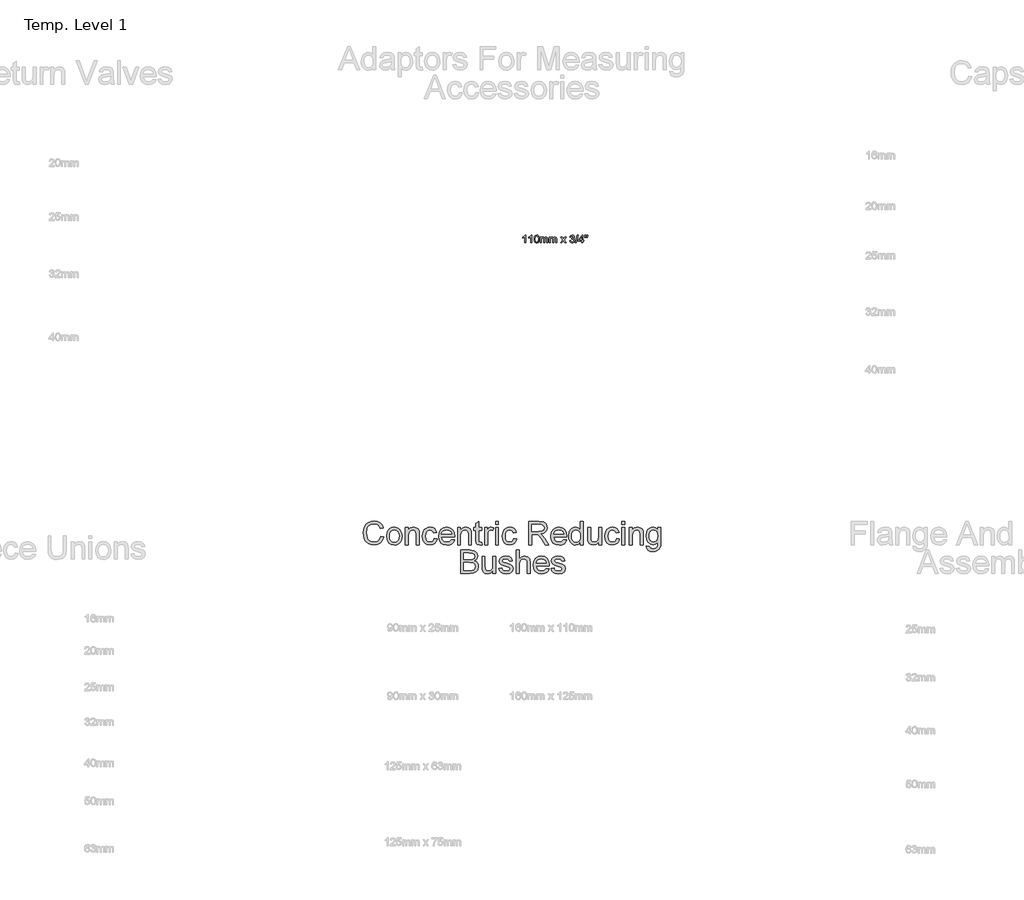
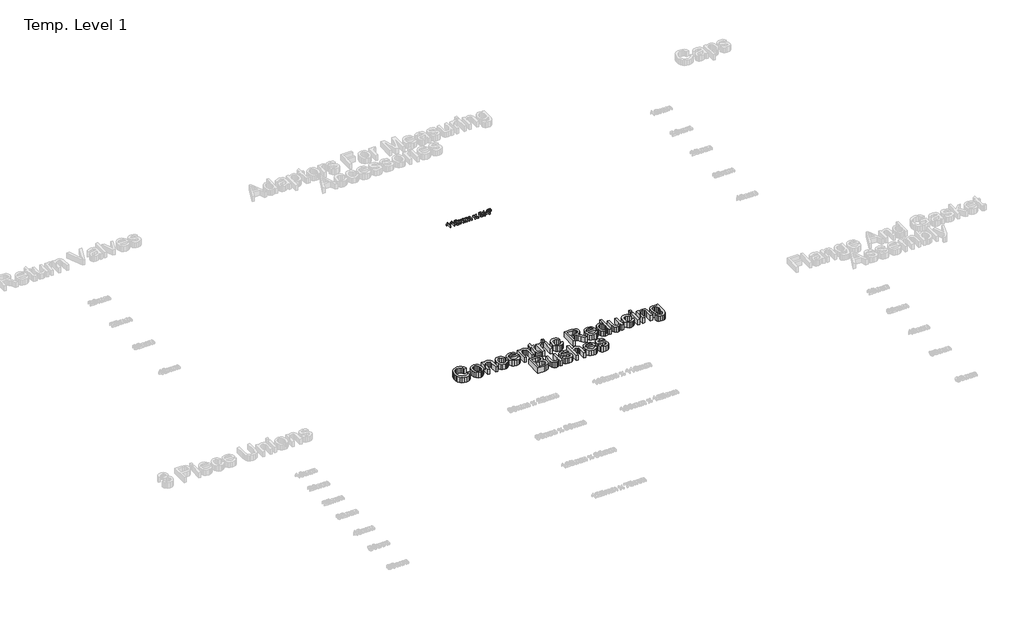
# One storey, part 38 of 62: 2 proxies.
"""IFC4 building model written with IfcOpenShell, lengths in millimetres."""

import ifcopenshell
import ifcopenshell.guid

model = None  # the IFC model being written
_history = None  # IfcOwnerHistory: only IFC2X3 demands one
_inside = {}  # id of a spatial element -> (the spatial element, [elements in it])
_under = {}  # id of a project, library or spatial element -> (it, [spatial elements below it])
_declared = {}  # id of a project -> (the project, [libraries it declares])
_typed = {}  # id of a type object -> (the type object, [elements of that type])
_made_of = {}  # id of a material, layer set ... -> (it, [elements and type objects made of it])


def new_model(schema):
    """Start an empty IFC model of exactly this schema.

    Asked for "IFC4X3", IfcOpenShell would pick the latest addendum, in which some entities
    have other attributes; the version numbers below select the first issue.
    IFC2X3 requires an IfcOwnerHistory on every rooted entity: one is made here for all.
    """
    global model, _history
    if schema == "IFC4X3":
        model = ifcopenshell.file(schema_version=(4, 3, 0, 0))
    else:
        model = ifcopenshell.file(schema=schema)
    _inside.clear()
    _under.clear()
    _declared.clear()
    _typed.clear()
    _made_of.clear()
    _history = None
    if model.schema == "IFC2X3":
        org = make("IfcOrganization", Name="unknown")
        user = make(
            "IfcPersonAndOrganization",
            ThePerson=make("IfcPerson", FamilyName="unknown"),
            TheOrganization=org,
        )
        app = make(
            "IfcApplication",
            ApplicationDeveloper=org,
            Version="unknown",
            ApplicationFullName="unknown",
            ApplicationIdentifier="unknown",
        )
        _history = make(
            "IfcOwnerHistory",
            OwningUser=user,
            OwningApplication=app,
            ChangeAction="ADDED",
            CreationDate=0,
        )
    return model


def make(cls, **values):
    """One entity of the class cls with the attributes given. An attribute that is None is left unset."""
    return model.create_entity(
        cls, **{name: value for name, value in values.items() if value is not None}
    )


def rooted(cls, **values):
    """An entity with a GlobalId (a new one), such as an element, a storey or a relation."""
    return make(cls, GlobalId=ifcopenshell.guid.new(), OwnerHistory=_history, **values)


def si_unit(unit_type, name, prefix=None):
    """IfcSIUnit, for example si_unit("LENGTHUNIT", "METRE", prefix="MILLI")."""
    return make("IfcSIUnit", UnitType=unit_type, Prefix=prefix, Name=name)


def assignment(units):
    """IfcUnitAssignment: the units of a project."""
    return None if units is None else make("IfcUnitAssignment", Units=units)


def point(xyz):
    """IfcCartesianPoint."""
    return None if xyz is None else make("IfcCartesianPoint", Coordinates=xyz)


def direction(xyz):
    """IfcDirection."""
    return None if xyz is None else make("IfcDirection", DirectionRatios=xyz)


def frame(location, z_axis=None, x_axis=None):
    """IfcAxis2Placement3D, a coordinate frame: its origin and axes. An axis left out is left unset."""
    return make(
        "IfcAxis2Placement3D",
        Location=point(location),
        Axis=direction(z_axis),
        RefDirection=direction(x_axis),
    )


def origin():
    """The frame at (0, 0, 0) with its axes left unset."""
    return frame((0.0, 0.0, 0.0))


def origin_with_axes():
    """The frame at (0, 0, 0) with the z axis (0, 0, 1) and the x axis (1, 0, 0) written out."""
    return frame((0.0, 0.0, 0.0), z_axis=(0.0, 0.0, 1.0), x_axis=(1.0, 0.0, 0.0))


def place(relative_to, where):
    """IfcLocalPlacement: puts the frame where relative to a parent placement (None: the world)."""
    return make(
        "IfcLocalPlacement", PlacementRelTo=relative_to, RelativePlacement=where
    )


def context(
    kind, dimensions, precision=None, world=None, true_north=None, identifier=None
):
    """IfcGeometricRepresentationContext, for example the 3D "Model" context."""
    return make(
        "IfcGeometricRepresentationContext",
        ContextIdentifier=identifier,
        ContextType=kind,
        CoordinateSpaceDimension=dimensions,
        Precision=precision,
        WorldCoordinateSystem=world,
        TrueNorth=true_north,
    )


def project(units=None, contexts=None):
    """IfcProject with its units and contexts."""
    return rooted(
        "IfcProject",
        Name="project",
        RepresentationContexts=contexts,
        UnitsInContext=assignment(units),
    )


def spatial(cls, under=None, at=None, **own):
    """A site, building, storey or space (cls), placed at a placement, below another one or the project."""
    s = rooted(cls, ObjectPlacement=at, **own)
    if under is not None:
        _under.setdefault(under.id(), (under, []))[1].append(s)
    return s


def polyline(points):
    """IfcPolyline through the points."""
    return make("IfcPolyline", Points=[point(p) for p in points])


def outline(outer, holes=None, kind="AREA"):
    """IfcArbitraryClosedProfileDef: a profile drawn as a closed curve; with holes, ...WithVoids."""
    if holes is None:
        return make("IfcArbitraryClosedProfileDef", ProfileType=kind, OuterCurve=outer)
    return make(
        "IfcArbitraryProfileDefWithVoids",
        ProfileType=kind,
        OuterCurve=outer,
        InnerCurves=holes,
    )


def extrude(swept, where, along, depth):
    """IfcExtrudedAreaSolid: the profile swept, set in the frame where, extruded along a direction by depth."""
    return make(
        "IfcExtrudedAreaSolid",
        SweptArea=swept,
        Position=where,
        ExtrudedDirection=direction(along),
        Depth=depth,
    )


def shape(context_of_items, identifier, shape_type, items):
    """IfcShapeRepresentation: the items that make up one representation, for example the "Body"."""
    return make(
        "IfcShapeRepresentation",
        ContextOfItems=context_of_items,
        RepresentationIdentifier=identifier,
        RepresentationType=shape_type,
        Items=items,
    )


def made_of(thing, what):
    """Note that an element or type object is made of a material, layer set ...; save() writes the relation."""
    if what is not None:
        _made_of.setdefault(what.id(), (what, []))[1].append(thing)
    return thing


def element(
    cls,
    number,
    at=None,
    inside=None,
    cuts=None,
    type_object=None,
    material=None,
    context=None,
    identifier="Body",
    shape_type=None,
    held_by="IfcProductDefinitionShape",
    body=None,
    shapes=None,
    **own,
):
    """One element of the class cls, such as IfcWall. Its Tag is "e" and its number.

    at: its placement. inside: the storey or other place that contains it. cuts: it is an
    opening in that element (IfcRelVoidsElement). A single representation is given by context,
    identifier, shape_type and body (its items); several are given by shapes. held_by: the class
    of the entity that holds the representations. save() writes the other relations.
    """
    e = rooted(cls, Tag="e%d" % number, ObjectPlacement=at, **own)
    if body is not None:
        shapes = [shape(context, identifier, shape_type, body)]
    if shapes is not None:
        e.Representation = make(held_by, Representations=shapes)
    if inside is not None:
        _inside.setdefault(inside.id(), (inside, []))[1].append(e)
    if cuts is not None:
        rooted(
            "IfcRelVoidsElement", RelatingBuildingElement=cuts, RelatedOpeningElement=e
        )
    if type_object is not None:
        _typed.setdefault(type_object.id(), (type_object, []))[1].append(e)
    return made_of(e, material)


def aggregate(whole, parts):
    """IfcRelAggregates: a whole, such as a stair, and the parts it consists of."""
    return rooted("IfcRelAggregates", RelatingObject=whole, RelatedObjects=parts)


def save(model, path):
    """Write the relations noted so far, then the file.

    IfcRelAggregates (storeys below a building ...), IfcRelContainedInSpatialStructure (elements
    in a storey), IfcRelDefinesByType, IfcRelAssociatesMaterial and IfcRelDeclares: one each for
    every whole, place, type object, material and project.
    """
    for whole, parts in _under.values():
        aggregate(whole, parts)
    for where, things in _inside.values():
        rooted(
            "IfcRelContainedInSpatialStructure",
            RelatedElements=things,
            RelatingStructure=where,
        )
    for kind, things in _typed.values():
        rooted("IfcRelDefinesByType", RelatedObjects=things, RelatingType=kind)
    for what, things in _made_of.values():
        rooted("IfcRelAssociatesMaterial", RelatedObjects=things, RelatingMaterial=what)
    for by, libraries in _declared.values():
        rooted("IfcRelDeclares", RelatingContext=by, RelatedDefinitions=libraries)
    model.write(path)


model = new_model("IFC4")

# Units and contexts
model_context = context("Model", 3, world=origin())
ifc_project = project(units=[si_unit("LENGTHUNIT", "METRE", prefix="MILLI")], contexts=[model_context])

# Site, building, storey
site = spatial("IfcSite", under=ifc_project)
building = spatial("IfcBuilding", under=site)
storey = spatial("IfcBuildingStorey", under=building, Name="Temp. Level 1", Elevation=0.0)

# Proxies
placement = place(None, origin())
element("IfcBuildingElementProxy", 1, Name="150mm Arial", ObjectType="150mm Arial", at=placement, inside=storey, context=model_context, shape_type="SweptSolid", body=[
    extrude(outline(polyline([(17588.4253288, -3926.5446709), (17606.8868673, -3931.3042862), (17598.3682375, -3952.8172069), (17584.9998481, -3968.5338536), (17567.4397519, -3978.1477358), (17546.3460019, -3981.3523632), (17524.9322399, -3978.9274834), (17507.9265308, -3971.6528439), (17494.891675, -3959.7808487), (17485.3904731, -3943.5639016), (17479.5896918, -3924.4983968), (17477.6560981, -3904.0807286), (17479.8420957, -3882.5452718), (17486.4000885, -3863.948517), (17496.9875284, -3848.8809088), (17511.2618673, -3837.932892), (17528.1909538, -3831.2667262), (17546.7426365, -3829.0446709), (17566.9845236, -3831.9202718), (17583.7198, -3840.5470747), (17596.4256293, -3854.3932286), (17604.579175, -3872.9268824), (17586.1176365, -3877.3259209), (17579.7173962, -3863.86288), (17570.9734058, -3854.6276036), (17559.7774923, -3849.2865579), (17546.0214827, -3847.5062093), (17530.1651125, -3849.480368), (17517.1392712, -3855.4028439), (17507.2549563, -3864.651642), (17500.8231654, -3876.604767), (17496.1176365, -3904.0446709), (17501.68855, -3935.8475555), (17508.8099442, -3947.7240579), (17519.0323, -3956.1660651), (17531.2874082, -3961.2096348), (17544.5070596, -3962.8908247), (17559.9172159, -3960.6011612), (17572.7582615, -3953.7321709), (17582.4532736, -3942.3559689), (17588.4253288, -3926.5446709)])), origin_with_axes(), (0.0, 0.0, 1.0), 50.0),
    extrude(outline(polyline([(17625.3484058, -3924.8139016), (17629.3417952, -3898.6630603), (17641.3219635, -3880.2826516), (17656.1236462, -3871.277243), (17673.8460019, -3868.2754401), (17693.2405332, -3871.9307887), (17708.7318192, -3882.8968343), (17718.8865668, -3900.3081925), (17722.2714827, -3923.2994786), (17720.7750885, -3941.9503199), (17716.2859058, -3956.1480362), (17708.9346438, -3966.7805483), (17698.8520115, -3974.7357766), (17686.8763505, -3979.6982165), (17673.8460019, -3981.3523632), (17654.2170957, -3977.7105362), (17638.7438385, -3966.7850555), (17628.6972639, -3949.0086132), (17625.3484058, -3924.8139016)]), holes=[polyline([(17643.8099442, -3924.7778439), (17645.9463625, -3941.4860771), (17652.3556173, -3953.3896228), (17662.00105, -3960.5155242), (17673.8460019, -3962.8908247), (17685.6368673, -3960.5020026), (17695.2642712, -3953.3355362), (17701.673526, -3941.2742382), (17703.8099442, -3924.2009209), (17701.6600043, -3907.9794665), (17695.2101846, -3896.2381805), (17685.5692591, -3889.112279), (17673.8460019, -3886.7369786), (17662.00105, -3889.1032646), (17652.3556173, -3896.2021228), (17645.9463625, -3908.0786252), (17643.8099442, -3924.7778439)])]), origin_with_axes(), (0.0, 0.0, 1.0), 50.0),
    extrude(outline(polyline([(17743.0407135, -3979.0446709), (17743.0407135, -3870.5831324), (17761.5022519, -3870.5831324), (17761.5022519, -3885.7273632), (17775.6188385, -3872.6384209), (17794.891675, -3868.2754401), (17812.3255692, -3871.7910651), (17824.2246077, -3881.0218343), (17829.7594635, -3894.5975555), (17830.7330212, -3912.4461132), (17830.7330212, -3979.0446709), (17812.2714827, -3979.0446709), (17812.2714827, -3914.9340939), (17810.1440788, -3898.5999593), (17802.62605, -3889.964142), (17789.9517712, -3886.7369786), (17779.1389707, -3888.5488776), (17769.9217231, -3893.9845747), (17763.6071197, -3904.4863776), (17761.5022519, -3921.4965939), (17761.5022519, -3979.0446709), (17743.0407135, -3979.0446709)])), origin_with_axes(), (0.0, 0.0, 1.0), 50.0),
    extrude(outline(polyline([(17925.3484058, -3939.8139016), (17943.8099442, -3942.1215939), (17938.6627087, -3958.5413656), (17928.9902327, -3970.9497189), (17915.7029731, -3978.7517021), (17899.7113865, -3981.3523632), (17880.0734659, -3977.7240579), (17864.7173962, -3966.839142), (17854.806038, -3949.17538), (17851.5022519, -3925.2105362), (17857.1452808, -3894.5434689), (17864.266675, -3883.0455723), (17874.3448, -3874.8379401), (17886.4015909, -3869.9160651), (17899.4589827, -3868.2754401), (17915.0584418, -3870.5290459), (17927.5298962, -3877.2898632), (17936.4767111, -3888.1973151), (17941.5022519, -3902.8908247), (17923.0407135, -3905.198517), (17914.4770115, -3891.370392), (17899.6032135, -3886.7369786), (17887.6726245, -3889.0176276), (17878.2029731, -3895.8595747), (17872.0235861, -3907.6324112), (17869.9637904, -3924.7057286), (17871.9785139, -3942.0089137), (17878.0226846, -3953.8223151), (17887.321062, -3960.6236973), (17899.0984058, -3962.8908247), (17908.6582014, -3961.4755603), (17916.4962423, -3957.229767), (17922.1978649, -3950.0452718), (17925.3484058, -3939.8139016)])), origin_with_axes(), (0.0, 0.0, 1.0), 50.0),
    extrude(outline(polyline([(18035.9012904, -3946.7369786), (18054.0022519, -3949.0446709), (18047.4803168, -3962.683493), (18037.0731654, -3972.8788055), (18023.0151726, -3979.2339737), (18005.5407135, -3981.3523632), (17983.8790548, -3977.6970146), (17967.2113865, -3966.7309689), (17956.5833817, -3949.1663656), (17953.0407135, -3925.7153439), (17956.6194394, -3901.4755603), (17967.3556173, -3883.3475555), (17983.797925, -3872.0434689), (18004.4950404, -3868.2754401), (18024.5476245, -3872.0344545), (18040.5707615, -3883.3114978), (18051.0770716, -3901.4034449), (18054.579175, -3925.6071709), (18054.4710019, -3930.5831324), (17971.5022519, -3930.5831324), (17974.6978649, -3944.402243), (17982.1212423, -3954.5614978), (17992.8348841, -3960.808493), (18005.9012904, -3962.8908247), (18024.0022519, -3959.0326516), (18035.9012904, -3946.7369786)]), holes=[polyline([(17971.5022519, -3912.1215939), (18036.1176365, -3912.1215939), (18033.6206413, -3902.3679882), (18028.7258096, -3895.3908247), (18017.9625885, -3888.9004401), (18004.422925, -3886.7369786), (17991.9785139, -3888.4632406), (17981.68855, -3893.6420266), (17974.5356053, -3901.7144425), (17971.5022519, -3912.1215939)])]), origin_with_axes(), (0.0, 0.0, 1.0), 50.0),
    extrude(outline(polyline([(18073.0407135, -3979.0446709), (18073.0407135, -3870.5831324), (18091.5022519, -3870.5831324), (18091.5022519, -3885.7273632), (18105.6188385, -3872.6384209), (18124.891675, -3868.2754401), (18142.3255692, -3871.7910651), (18154.2246077, -3881.0218343), (18159.7594635, -3894.5975555), (18160.7330212, -3912.4461132), (18160.7330212, -3979.0446709), (18142.2714827, -3979.0446709), (18142.2714827, -3914.9340939), (18140.1440788, -3898.5999593), (18132.62605, -3889.964142), (18119.9517712, -3886.7369786), (18109.1389707, -3888.5488776), (18099.9217231, -3893.9845747), (18093.6071197, -3904.4863776), (18091.5022519, -3921.4965939), (18091.5022519, -3979.0446709), (18073.0407135, -3979.0446709)])), origin_with_axes(), (0.0, 0.0, 1.0), 50.0),
    extrude(outline(polyline([(18225.3484058, -3963.6480362), (18227.6560981, -3979.5855362), (18213.8460019, -3981.3523632), (18198.3772519, -3978.2874593), (18190.6609058, -3970.2465939), (18188.4253288, -3949.2970747), (18188.4253288, -3889.0446709), (18174.579175, -3889.0446709), (18174.579175, -3870.5831324), (18188.4253288, -3870.5831324), (18188.4253288, -3844.2249593), (18206.8868673, -3833.3715939), (18206.8868673, -3870.5831324), (18225.3484058, -3870.5831324), (18225.3484058, -3889.0446709), (18206.8868673, -3889.0446709), (18206.8868673, -3948.7562093), (18207.860425, -3958.2754401), (18211.0154731, -3961.6468343), (18217.3075404, -3962.8908247), (18225.3484058, -3963.6480362)])), origin_with_axes(), (0.0, 0.0, 1.0), 50.0),
    extrude(outline(polyline([(18243.8099442, -3979.0446709), (18243.8099442, -3870.5831324), (18259.9637904, -3870.5831324), (18259.9637904, -3886.6288055), (18271.4301365, -3871.8451516), (18282.9685981, -3868.2754401), (18301.5022519, -3873.9725555), (18295.3363865, -3890.5230362), (18282.3556173, -3886.7369786), (18271.9169154, -3890.3788055), (18265.2642712, -3900.4749593), (18262.2714827, -3922.0374593), (18262.2714827, -3979.0446709), (18243.8099442, -3979.0446709)])), origin_with_axes(), (0.0, 0.0, 1.0), 50.0),
    extrude(outline(polyline([(18313.0407135, -3979.0446709), (18313.0407135, -3870.5831324), (18331.5022519, -3870.5831324), (18331.5022519, -3979.0446709), (18313.0407135, -3979.0446709)])), origin_with_axes(), (0.0, 0.0, 1.0), 50.0),
    extrude(outline(polyline([(18313.0407135, -3849.8139016), (18313.0407135, -3831.3523632), (18331.5022519, -3831.3523632), (18331.5022519, -3849.8139016), (18313.0407135, -3849.8139016)])), origin_with_axes(), (0.0, 0.0, 1.0), 50.0),
    extrude(outline(polyline([(18428.4253288, -3939.8139016), (18446.8868673, -3942.1215939), (18441.7396317, -3958.5413656), (18432.0671558, -3970.9497189), (18418.7798962, -3978.7517021), (18402.7883096, -3981.3523632), (18383.1503889, -3977.7240579), (18367.7943192, -3966.839142), (18357.8829611, -3949.17538), (18354.579175, -3925.2105362), (18360.2222038, -3894.5434689), (18367.3435981, -3883.0455723), (18377.4217231, -3874.8379401), (18389.4785139, -3869.9160651), (18402.5359058, -3868.2754401), (18418.1353649, -3870.5290459), (18430.6068192, -3877.2898632), (18439.5536341, -3888.1973151), (18444.579175, -3902.8908247), (18426.1176365, -3905.198517), (18417.5539346, -3891.370392), (18402.6801365, -3886.7369786), (18390.7495476, -3889.0176276), (18381.2798962, -3895.8595747), (18375.1005091, -3907.6324112), (18373.0407135, -3924.7057286), (18375.055437, -3942.0089137), (18381.0996077, -3953.8223151), (18390.3979851, -3960.6236973), (18402.1753288, -3962.8908247), (18411.7351245, -3961.4755603), (18419.5731654, -3957.229767), (18425.274788, -3950.0452718), (18428.4253288, -3939.8139016)])), origin_with_axes(), (0.0, 0.0, 1.0), 50.0),
    extrude(outline(polyline([(18523.0407135, -3979.0446709), (18523.0407135, -3831.3523632), (18586.6825404, -3831.3523632), (18616.2318192, -3835.3367382), (18625.3273721, -3840.8535651), (18632.3856654, -3849.4352959), (18636.915413, -3860.0768223), (18638.4253288, -3871.7730362), (18635.9238264, -3886.3223151), (18628.4193192, -3898.3836132), (18615.6864466, -3907.2267622), (18597.4998481, -3912.1215939), (18607.9926365, -3920.0182286), (18622.9565788, -3939.0206324), (18647.5839827, -3979.0446709), (18626.1296558, -3979.0446709), (18606.9109058, -3948.4316901), (18593.0286942, -3928.167267), (18583.2750885, -3918.5939497), (18574.4950404, -3915.0783247), (18563.7859058, -3914.4292862), (18541.5022519, -3914.4292862), (18541.5022519, -3979.0446709), (18523.0407135, -3979.0446709)]), holes=[polyline([(18541.5022519, -3895.9677478), (18582.8243673, -3895.9677478), (18603.9000885, -3893.3535651), (18615.8712423, -3884.9881805), (18619.9637904, -3872.4581324), (18618.0121678, -3863.4527237), (18612.1573, -3856.1961132), (18602.0836822, -3851.4094545), (18587.4758096, -3849.8139016), (18541.5022519, -3849.8139016), (18541.5022519, -3895.9677478)])]), origin_with_axes(), (0.0, 0.0, 1.0), 50.0),
    extrude(outline(polyline([(18744.3628288, -3946.7369786), (18762.4637904, -3949.0446709), (18755.9418553, -3962.683493), (18745.5347038, -3972.8788055), (18731.4767111, -3979.2339737), (18714.0022519, -3981.3523632), (18692.3405933, -3977.6970146), (18675.672925, -3966.7309689), (18665.0449202, -3949.1663656), (18661.5022519, -3925.7153439), (18665.0809779, -3901.4755603), (18675.8171558, -3883.3475555), (18692.2594635, -3872.0434689), (18712.9565788, -3868.2754401), (18733.009163, -3872.0344545), (18749.0323, -3883.3114978), (18759.5386101, -3901.4034449), (18763.0407135, -3925.6071709), (18762.9325404, -3930.5831324), (18679.9637904, -3930.5831324), (18683.1594034, -3944.402243), (18690.5827808, -3954.5614978), (18701.2964226, -3960.808493), (18714.3628288, -3962.8908247), (18732.4637904, -3959.0326516), (18744.3628288, -3946.7369786)]), holes=[polyline([(18679.9637904, -3912.1215939), (18744.579175, -3912.1215939), (18742.0821798, -3902.3679882), (18737.1873481, -3895.3908247), (18726.4241269, -3888.9004401), (18712.8844635, -3886.7369786), (18700.4400524, -3888.4632406), (18690.1500885, -3893.6420266), (18682.9971438, -3901.7144425), (18679.9637904, -3912.1215939)])]), origin_with_axes(), (0.0, 0.0, 1.0), 50.0),
    extrude(outline(polyline([(18848.4253288, -3979.0446709), (18848.4253288, -3961.6288055), (18836.2107856, -3976.4214737), (18819.3267712, -3981.3523632), (18807.391675, -3979.5675074), (18796.4661942, -3974.2129401), (18787.2173962, -3965.6627598), (18780.3123481, -3954.2910651), (18776.0124683, -3940.5575915), (18774.579175, -3924.9220747), (18779.8616269, -3895.5350555), (18786.4601846, -3883.8794064), (18795.6909538, -3875.3066901), (18806.8553168, -3870.0332526), (18819.2546558, -3868.2754401), (18836.2738865, -3873.3054882), (18848.4253288, -3886.3764016), (18848.4253288, -3831.3523632), (18866.8868673, -3831.3523632), (18866.8868673, -3979.0446709), (18848.4253288, -3979.0446709)]), holes=[polyline([(18793.0407135, -3924.8499593), (18795.1230452, -3941.5491781), (18801.3700404, -3953.4256805), (18810.4475644, -3960.5245387), (18821.0214827, -3962.8908247), (18831.5908938, -3960.6327117), (18840.43855, -3953.8583728), (18846.4286341, -3942.441606), (18848.4253288, -3926.2562093), (18846.3925764, -3908.5608968), (18840.2943192, -3896.292267), (18831.2213024, -3889.1258007), (18820.2642712, -3886.7369786), (18809.5821798, -3889.0311492), (18800.829175, -3895.9136612), (18794.9878288, -3907.7360771), (18793.0407135, -3924.8499593)])]), origin_with_axes(), (0.0, 0.0, 1.0), 50.0),
    extrude(outline(polyline([(18963.8099442, -3979.0446709), (18963.8099442, -3960.4028439), (18949.3508096, -3976.1149834), (18930.4926365, -3981.3523632), (18913.1308577, -3977.6744786), (18901.1597038, -3968.4437093), (18895.6609058, -3954.8499593), (18894.579175, -3937.6864978), (18894.579175, -3870.5831324), (18913.0407135, -3870.5831324), (18913.0407135, -3928.9965939), (18914.1585019, -3947.8187093), (18921.4601846, -3958.870392), (18935.2161942, -3962.8908247), (18950.6308577, -3958.7802478), (18960.8171558, -3947.5843343), (18963.8099442, -3927.0134209), (18963.8099442, -3870.5831324), (18982.2714827, -3870.5831324), (18982.2714827, -3979.0446709), (18963.8099442, -3979.0446709)])), origin_with_axes(), (0.0, 0.0, 1.0), 50.0),
    extrude(outline(polyline([(19076.8868673, -3939.8139016), (19095.3484058, -3942.1215939), (19090.2011702, -3958.5413656), (19080.5286942, -3970.9497189), (19067.2414346, -3978.7517021), (19051.2498481, -3981.3523632), (19031.6119274, -3977.7240579), (19016.2558577, -3966.839142), (19006.3444995, -3949.17538), (19003.0407135, -3925.2105362), (19008.6837423, -3894.5434689), (19015.8051365, -3883.0455723), (19025.8832615, -3874.8379401), (19037.9400524, -3869.9160651), (19050.9974442, -3868.2754401), (19066.5969034, -3870.5290459), (19079.0683577, -3877.2898632), (19088.0151726, -3888.1973151), (19093.0407135, -3902.8908247), (19074.579175, -3905.198517), (19066.0154731, -3891.370392), (19051.141675, -3886.7369786), (19039.2110861, -3889.0176276), (19029.7414346, -3895.8595747), (19023.5620476, -3907.6324112), (19021.5022519, -3924.7057286), (19023.5169755, -3942.0089137), (19029.5611462, -3953.8223151), (19038.8595236, -3960.6236973), (19050.6368673, -3962.8908247), (19060.196663, -3961.4755603), (19068.0347038, -3957.229767), (19073.7363264, -3950.0452718), (19076.8868673, -3939.8139016)])), origin_with_axes(), (0.0, 0.0, 1.0), 50.0),
    extrude(outline(polyline([(19111.5022519, -3979.0446709), (19111.5022519, -3870.5831324), (19129.9637904, -3870.5831324), (19129.9637904, -3979.0446709), (19111.5022519, -3979.0446709)])), origin_with_axes(), (0.0, 0.0, 1.0), 50.0),
    extrude(outline(polyline([(19111.5022519, -3849.8139016), (19111.5022519, -3831.3523632), (19129.9637904, -3831.3523632), (19129.9637904, -3849.8139016), (19111.5022519, -3849.8139016)])), origin_with_axes(), (0.0, 0.0, 1.0), 50.0),
    extrude(outline(polyline([(19157.6560981, -3979.0446709), (19157.6560981, -3870.5831324), (19176.1176365, -3870.5831324), (19176.1176365, -3885.7273632), (19190.2342231, -3872.6384209), (19209.5070596, -3868.2754401), (19226.9409538, -3871.7910651), (19238.8399923, -3881.0218343), (19244.3748481, -3894.5975555), (19245.3484058, -3912.4461132), (19245.3484058, -3979.0446709), (19226.8868673, -3979.0446709), (19226.8868673, -3914.9340939), (19224.7594635, -3898.5999593), (19217.2414346, -3889.964142), (19204.5671558, -3886.7369786), (19193.7543553, -3888.5488776), (19184.5371077, -3893.9845747), (19178.2225043, -3904.4863776), (19176.1176365, -3921.4965939), (19176.1176365, -3979.0446709), (19157.6560981, -3979.0446709)])), origin_with_axes(), (0.0, 0.0, 1.0), 50.0),
    extrude(outline(polyline([(19266.1176365, -3988.2754401), (19284.579175, -3990.5831324), (19290.5647519, -4000.3187093), (19308.485425, -4004.4292862), (19327.3796558, -3999.7778439), (19336.3940788, -3986.7249593), (19337.6560981, -3965.198517), (19324.6573, -3975.5831324), (19308.8099442, -3979.0446709), (19289.7759899, -3975.0152237), (19275.5827808, -3962.9268824), (19266.7531534, -3945.2045266), (19263.8099442, -3924.2730362), (19269.0923962, -3895.6612574), (19275.5557375, -3884.0461733), (19284.3808577, -3875.4148632), (19295.2657736, -3870.0602959), (19307.9085019, -3868.2754401), (19324.3778529, -3872.3139016), (19337.6560981, -3884.4292862), (19337.6560981, -3870.5831324), (19356.1176365, -3870.5831324), (19356.1176365, -3964.2249593), (19354.8556173, -3985.8460531), (19351.0695596, -4000.0843343), (19344.5476245, -4009.5269425), (19335.0779731, -4016.761017), (19322.867937, -4021.3583728), (19308.1248481, -4022.8908247), (19290.9478649, -4020.7318704), (19277.4217231, -4014.2550074), (19268.7453409, -4003.4422069), (19266.1176365, -3988.2754401)]), holes=[polyline([(19282.2714827, -3923.011017), (19284.2411341, -3939.9446108), (19290.1500885, -3951.5867382), (19299.0338024, -3958.3340338), (19309.9277327, -3960.5831324), (19320.7405332, -3958.3475555), (19329.6693192, -3951.6408247), (19335.6594034, -3940.1474353), (19337.6560981, -3923.5518824), (19335.6008096, -3907.5467742), (19329.4349442, -3896.0218343), (19320.375449, -3889.0581925), (19309.6392712, -3886.7369786), (19299.0969034, -3889.0221348), (19290.2582615, -3895.8776036), (19284.2681774, -3907.2312694), (19282.2714827, -3923.011017)])]), origin_with_axes(), (0.0, 0.0, 1.0), 50.0),
    extrude(outline(polyline([(18093.8099442, -4161.3523632), (18093.8099442, -4013.6600555), (18150.1681173, -4013.6600555), (18177.7702808, -4018.0050074), (18187.0461221, -4023.5173271), (18194.0683577, -4031.3643824), (18199.9637904, -4050.2586132), (18195.0058577, -4067.5122189), (18180.0238865, -4080.5831324), (18190.4851245, -4086.0458728), (18198.2149923, -4094.3571709), (18202.9881293, -4104.9671468), (18204.579175, -4117.3259209), (18200.2342231, -4137.1756805), (18189.4710019, -4151.3102959), (18173.4073, -4158.8102959), (18149.735425, -4161.3523632), (18093.8099442, -4161.3523632)]), holes=[polyline([(18112.2714827, -4073.6600555), (18145.985425, -4073.6600555), (18165.672925, -4072.073517), (18177.5178769, -4065.2405843), (18181.5022519, -4053.2153439), (18177.7883096, -4041.1720747), (18167.1512904, -4034.0506805), (18143.4253288, -4032.1215939), (18112.2714827, -4032.1215939), (18112.2714827, -4073.6600555)]), polyline([(18112.2714827, -4142.8908247), (18150.1320596, -4142.8908247), (18163.8339827, -4142.1696709), (18175.4265308, -4138.1492382), (18183.1068192, -4129.9461132), (18186.1176365, -4117.5062093), (18182.5839827, -4103.1552478), (18171.1356654, -4094.5915459), (18148.329175, -4092.1215939), (18112.2714827, -4092.1215939), (18112.2714827, -4142.8908247)])]), origin_with_axes(), (0.0, 0.0, 1.0), 50.0),
    extrude(outline(polyline([(18296.8868673, -4161.3523632), (18296.8868673, -4142.7105362), (18282.4277327, -4158.4226757), (18263.5695596, -4163.6600555), (18246.2077808, -4159.9821709), (18234.2366269, -4150.7514016), (18228.7378288, -4137.1576516), (18227.6560981, -4119.9941901), (18227.6560981, -4052.8908247), (18246.1176365, -4052.8908247), (18246.1176365, -4111.3042862), (18247.235425, -4130.1264016), (18254.5371077, -4141.1780843), (18268.2931173, -4145.198517), (18283.7077808, -4141.0879401), (18293.8940788, -4129.8920266), (18296.8868673, -4109.3211132), (18296.8868673, -4052.8908247), (18315.3484058, -4052.8908247), (18315.3484058, -4161.3523632), (18296.8868673, -4161.3523632)])), origin_with_axes(), (0.0, 0.0, 1.0), 50.0),
    extrude(outline(polyline([(18333.8099442, -4129.0446709), (18352.2714827, -4126.7369786), (18355.1831413, -4134.6336132), (18360.8171558, -4140.4389016), (18380.3964827, -4145.198517), (18399.2185981, -4140.8355362), (18405.3484058, -4130.5951516), (18399.1825404, -4122.3018824), (18380.1801365, -4117.0374593), (18352.3796558, -4108.0050074), (18340.2462423, -4097.4581324), (18336.1176365, -4082.5663055), (18339.4349442, -4068.8102959), (18348.485425, -4058.2994786), (18360.2222038, -4052.8367382), (18376.1056173, -4050.5831324), (18398.5695596, -4054.2069305), (18412.8484058, -4064.0146228), (18419.1945596, -4080.5831324), (18400.7330212, -4082.8908247), (18393.7919154, -4072.7045266), (18377.547925, -4069.0446709), (18359.8796558, -4072.542267), (18354.579175, -4080.6913055), (18356.7786942, -4086.0639016), (18363.6657135, -4090.1384209), (18379.5671558, -4094.0687093), (18406.6645115, -4102.7586132), (18419.2486462, -4112.6023632), (18423.8099442, -4128.6480362), (18418.4553769, -4146.3163055), (18403.0046558, -4159.1348151), (18380.1440788, -4163.6600555), (18361.5292952, -4161.4785651), (18347.9445596, -4154.9340939), (18338.87605, -4144.0987574), (18333.8099442, -4129.0446709)])), origin_with_axes(), (0.0, 0.0, 1.0), 50.0),
    extrude(outline(polyline([(18444.579175, -4161.3523632), (18444.579175, -4013.6600555), (18463.0407135, -4013.6600555), (18463.0407135, -4067.9629401), (18477.4367471, -4054.9280843), (18495.1681173, -4050.5831324), (18515.9012904, -4055.3247189), (18528.485425, -4068.4316901), (18532.2714827, -4092.698517), (18532.2714827, -4161.3523632), (18513.8099442, -4161.3523632), (18513.8099442, -4094.6095747), (18512.3405933, -4083.0530843), (18507.9325404, -4075.1384209), (18500.829175, -4070.5681084), (18491.2738865, -4069.0446709), (18476.1476846, -4073.1552478), (18466.0515308, -4084.2970747), (18463.0407135, -4103.7321709), (18463.0407135, -4161.3523632), (18444.579175, -4161.3523632)])), origin_with_axes(), (0.0, 0.0, 1.0), 50.0),
    extrude(outline(polyline([(18633.5935981, -4129.0446709), (18651.6945596, -4131.3523632), (18645.1726245, -4144.9911853), (18634.7654731, -4155.1864978), (18620.7074803, -4161.5416661), (18603.2330212, -4163.6600555), (18581.5713625, -4160.0047069), (18564.9036942, -4149.0386612), (18554.2756894, -4131.4740579), (18550.7330212, -4108.0230362), (18554.3117471, -4083.7832526), (18565.047925, -4065.6552478), (18581.4902327, -4054.3511612), (18602.1873481, -4050.5831324), (18622.2399322, -4054.3421468), (18638.2630692, -4065.6191901), (18648.7693793, -4083.7111372), (18652.2714827, -4107.9148632), (18652.1633096, -4112.8908247), (18569.1945596, -4112.8908247), (18572.3901726, -4126.7099353), (18579.81355, -4136.8691901), (18590.5271918, -4143.1161853), (18603.5935981, -4145.198517), (18621.6945596, -4141.3403439), (18633.5935981, -4129.0446709)]), holes=[polyline([(18569.1945596, -4094.4292862), (18633.8099442, -4094.4292862), (18631.312949, -4084.6756805), (18626.4181173, -4077.698517), (18615.6548962, -4071.2081324), (18602.1152327, -4069.0446709), (18589.6708216, -4070.7709329), (18579.3808577, -4075.9497189), (18572.227913, -4084.0221348), (18569.1945596, -4094.4292862)])]), origin_with_axes(), (0.0, 0.0, 1.0), 50.0),
    extrude(outline(polyline([(18663.8099442, -4129.0446709), (18682.2714827, -4126.7369786), (18685.1831413, -4134.6336132), (18690.8171558, -4140.4389016), (18710.3964827, -4145.198517), (18729.2185981, -4140.8355362), (18735.3484058, -4130.5951516), (18729.1825404, -4122.3018824), (18710.1801365, -4117.0374593), (18682.3796558, -4108.0050074), (18670.2462423, -4097.4581324), (18666.1176365, -4082.5663055), (18669.4349442, -4068.8102959), (18678.485425, -4058.2994786), (18690.2222038, -4052.8367382), (18706.1056173, -4050.5831324), (18728.5695596, -4054.2069305), (18742.8484058, -4064.0146228), (18749.1945596, -4080.5831324), (18730.7330212, -4082.8908247), (18723.7919154, -4072.7045266), (18707.547925, -4069.0446709), (18689.8796558, -4072.542267), (18684.579175, -4080.6913055), (18686.7786942, -4086.0639016), (18693.6657135, -4090.1384209), (18709.5671558, -4094.0687093), (18736.6645115, -4102.7586132), (18749.2486462, -4112.6023632), (18753.8099442, -4128.6480362), (18748.4553769, -4146.3163055), (18733.0046558, -4159.1348151), (18710.1440788, -4163.6600555), (18691.5292952, -4161.4785651), (18677.9445596, -4154.9340939), (18668.87605, -4144.0987574), (18663.8099442, -4129.0446709)])), origin_with_axes(), (0.0, 0.0, 1.0), 50.0),
])
element("IfcBuildingElementProxy", 2, Name="50mm Arial", ObjectType="50mm Arial", at=placement, inside=storey, context=model_context, shape_type="SweptSolid", body=[
    extrude(outline(polyline([(18504.3454983, -2071.6726929), (18498.1916521, -2071.6726929), (18498.1916521, -2033.3073083), (18492.3623252, -2037.4599525), (18485.8839598, -2040.5669237), (18485.8839598, -2034.749616), (18494.9043925, -2028.9924045), (18500.3791521, -2022.4419237), (18504.3454983, -2022.4419237), (18504.3454983, -2071.6726929)])), origin_with_axes(), (0.0, 0.0, 1.0), 15.0),
    extrude(outline(polyline([(18542.037806, -2071.6726929), (18535.8839598, -2071.6726929), (18535.8839598, -2033.3073083), (18530.0546329, -2037.4599525), (18523.5762675, -2040.5669237), (18523.5762675, -2034.749616), (18532.5967002, -2028.9924045), (18538.0714598, -2022.4419237), (18542.037806, -2022.4419237), (18542.037806, -2071.6726929)])), origin_with_axes(), (0.0, 0.0, 1.0), 15.0),
    extrude(outline(polyline([(18556.6531906, -2047.4539429), (18558.4620848, -2033.2892795), (18563.834681, -2025.1222122), (18572.8070367, -2022.4419237), (18579.9945367, -2024.0284622), (18584.958479, -2028.6017795), (18587.8430944, -2035.8854333), (18588.9608829, -2047.4539429), (18587.1700175, -2061.5585102), (18581.8154502, -2069.7436064), (18572.8070367, -2072.4419237), (18561.5570367, -2067.7544237), (18557.8791521, -2059.4281016), (18556.6531906, -2047.4539429)]), holes=[polyline([(18562.8070367, -2047.4419237), (18565.6916521, -2062.7243756), (18572.8070367, -2066.2880775), (18579.9224214, -2062.7123564), (18582.8070367, -2047.4419237), (18580.0185752, -2032.3337506), (18572.7349214, -2028.5957698), (18565.787806, -2031.8890391), (18562.8070367, -2047.4419237)])]), origin_with_axes(), (0.0, 0.0, 1.0), 15.0),
    extrude(outline(polyline([(18595.8839598, -2071.6726929), (18595.8839598, -2035.5188468), (18602.037806, -2035.5188468), (18602.037806, -2041.468366), (18606.2685752, -2036.5945679), (18612.2902098, -2034.749616), (18618.4560752, -2036.6306256), (18621.8454983, -2041.9010583), (18626.647181, -2036.5374766), (18632.7108829, -2034.749616), (18640.7577579, -2037.7243756), (18643.5762675, -2046.8890391), (18643.5762675, -2071.6726929), (18637.4224214, -2071.6726929), (18637.4224214, -2049.5332698), (18636.8515079, -2044.3950487), (18634.7842002, -2041.8650006), (18631.2685752, -2040.9034622), (18625.2168925, -2043.3674045), (18622.8070367, -2051.2640391), (18622.8070367, -2071.6726929), (18616.6531906, -2071.6726929), (18616.6531906, -2048.8481737), (18615.2289117, -2042.8866352), (18610.5594406, -2040.9034622), (18606.0041521, -2042.2255775), (18602.975306, -2046.0957698), (18602.037806, -2053.4395198), (18602.037806, -2071.6726929), (18595.8839598, -2071.6726929)])), origin_with_axes(), (0.0, 0.0, 1.0), 15.0),
    extrude(outline(polyline([(18652.8070367, -2071.6726929), (18652.8070367, -2035.5188468), (18658.9608829, -2035.5188468), (18658.9608829, -2041.468366), (18663.1916521, -2036.5945679), (18669.2132867, -2034.749616), (18675.3791521, -2036.6306256), (18678.7685752, -2041.9010583), (18683.5702579, -2036.5374766), (18689.6339598, -2034.749616), (18697.6808348, -2037.7243756), (18700.4993444, -2046.8890391), (18700.4993444, -2071.6726929), (18694.3454983, -2071.6726929), (18694.3454983, -2049.5332698), (18693.7745848, -2044.3950487), (18691.7072771, -2041.8650006), (18688.1916521, -2040.9034622), (18682.1399694, -2043.3674045), (18679.7301137, -2051.2640391), (18679.7301137, -2071.6726929), (18673.5762675, -2071.6726929), (18673.5762675, -2048.8481737), (18672.1519887, -2042.8866352), (18667.4825175, -2040.9034622), (18662.927229, -2042.2255775), (18659.8983829, -2046.0957698), (18658.9608829, -2053.4395198), (18658.9608829, -2071.6726929), (18652.8070367, -2071.6726929)])), origin_with_axes(), (0.0, 0.0, 1.0), 15.0),
    extrude(outline(polyline([(18725.114729, -2071.6726929), (18738.2637675, -2053.499616), (18725.8839598, -2035.5188468), (18733.287806, -2035.5188468), (18739.2613637, -2044.1726929), (18742.0498252, -2048.2592314), (18744.4656906, -2044.9178852), (18751.2685752, -2035.5188468), (18758.6724214, -2035.5188468), (18745.6676137, -2053.499616), (18758.1916521, -2071.6726929), (18750.787806, -2071.6726929), (18743.2517483, -2060.7472122), (18741.8695367, -2058.7520198), (18732.5185752, -2071.6726929), (18725.114729, -2071.6726929)])), origin_with_axes(), (0.0, 0.0, 1.0), 15.0),
    extrude(outline(polyline([(18781.2685752, -2058.5957698), (18787.4224214, -2057.8265391), (18790.817854, -2064.3049045), (18797.1700175, -2066.2880775), (18804.645979, -2063.5597122), (18807.4224214, -2056.8049045), (18804.6700175, -2050.4407218), (18797.6748252, -2047.9226929), (18793.3599214, -2048.5957698), (18794.0450175, -2042.4419237), (18802.0137675, -2040.7472122), (18805.114729, -2035.3145198), (18802.8671329, -2030.5008179), (18797.0738637, -2028.5957698), (18791.208479, -2030.5188468), (18788.1916521, -2036.2880775), (18782.037806, -2035.5188468), (18787.0738637, -2025.8674045), (18796.8575175, -2022.4419237), (18804.2793925, -2024.1306256), (18809.4717002, -2028.7460102), (18811.2685752, -2034.9539429), (18809.5618444, -2040.6270198), (18804.5137675, -2044.7015391), (18811.2204983, -2048.9082698), (18813.5762675, -2056.9130775), (18808.864729, -2067.9226929), (18796.9536714, -2072.4419237), (18786.1604021, -2068.5837506), (18781.2685752, -2058.5957698)])), origin_with_axes(), (0.0, 0.0, 1.0), 15.0),
    extrude(outline(polyline([(18815.8839598, -2071.6726929), (18829.7301137, -2022.4419237), (18835.2829983, -2022.4419237), (18821.4368444, -2071.6726929), (18815.8839598, -2071.6726929)])), origin_with_axes(), (0.0, 0.0, 1.0), 15.0),
    extrude(outline(polyline([(18858.1916521, -2071.6726929), (18858.1916521, -2060.1342314), (18835.8839598, -2060.1342314), (18835.8839598, -2053.9803852), (18859.7301137, -2023.2111545), (18864.3454983, -2023.2111545), (18864.3454983, -2053.9803852), (18870.4993444, -2053.9803852), (18870.4993444, -2060.1342314), (18864.3454983, -2060.1342314), (18864.3454983, -2071.6726929), (18858.1916521, -2071.6726929)]), holes=[polyline([(18858.1916521, -2053.9803852), (18858.1916521, -2034.9659622), (18843.4560752, -2053.9803852), (18858.1916521, -2053.9803852)])]), origin_with_axes(), (0.0, 0.0, 1.0), 15.0),
    extrude(outline(polyline([(18889.6579983, -2040.1342314), (18888.1916521, -2030.6270198), (18888.1916521, -2022.4419237), (18894.3454983, -2022.4419237), (18894.3454983, -2030.6270198), (18892.9031906, -2040.1342314), (18889.6579983, -2040.1342314)])), origin_with_axes(), (0.0, 0.0, 1.0), 15.0),
    extrude(outline(polyline([(18877.3863637, -2040.1342314), (18875.8839598, -2030.6270198), (18875.8839598, -2022.4419237), (18882.037806, -2022.4419237), (18882.037806, -2030.6270198), (18880.6916521, -2040.1342314), (18877.3863637, -2040.1342314)])), origin_with_axes(), (0.0, 0.0, 1.0), 15.0),
])

save(model, "model.ifc")
